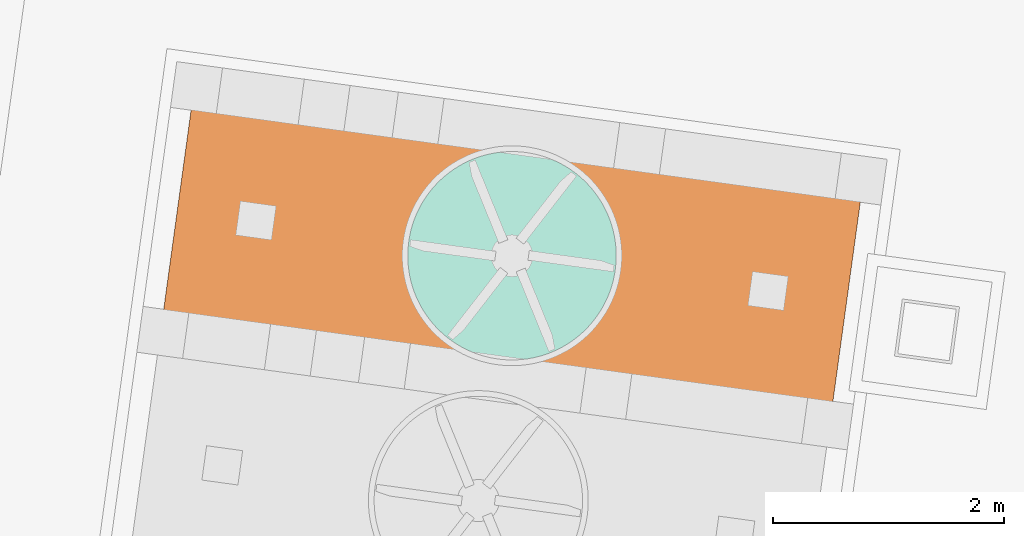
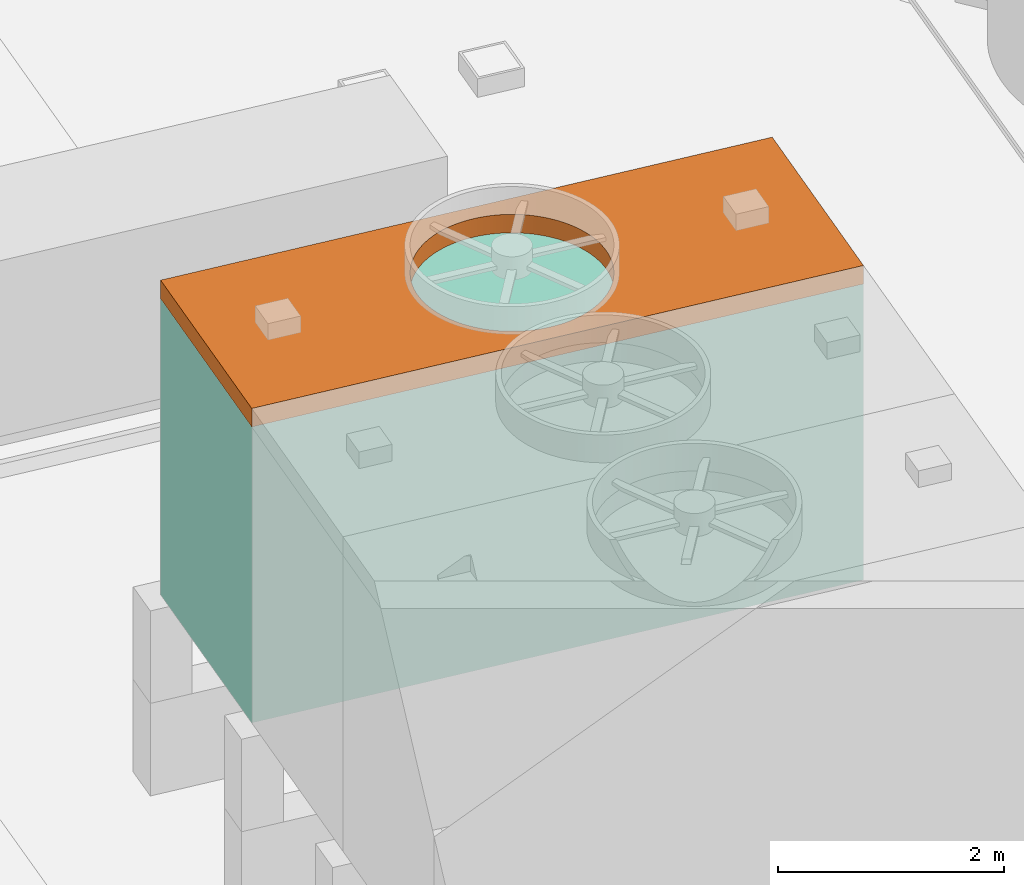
# Not in any storey, part 45 of 75: 1 proxy, plus 1 element that does not belong to this part.
"""IFC4 model written with IfcOpenShell, lengths in metres."""

from ifc_helpers import new_model, si_unit, direction, origin_with_axes, place, context, subcontext, project, spatial, triangles, element, aggregate, save


model = new_model("IFC4")

# Units and contexts
model_context = context("Model", 3, precision=1e-05, world=origin_with_axes(), true_north=direction((0.0, 1.0)))
body_context = subcontext(model_context, "Body", "Model", "MODEL_VIEW")
ifc_project = project(units=[si_unit("AREAUNIT", "SQUARE_METRE"), si_unit("VOLUMEUNIT", "CUBIC_METRE"), si_unit("LENGTHUNIT", "METRE")], contexts=[model_context])

# Site
site_placement = place(None, origin_with_axes())
site = spatial("IfcSite", under=ifc_project, at=site_placement, Name="Parcela industrial Jinhong")

# Cooling tower, proxy
cooling_tower_placement = place(site_placement, origin_with_axes())
cooling_tower = element("IfcCoolingTower", 1, at=cooling_tower_placement, inside=site, Name="Torre de refrigeración WT3001A · Envolvente del cuerpo de la torre", ObjectType="Envolvente de equipo", PredefinedType="USERDEFINED", context=body_context, shape_type="Tessellation", body=[
    triangles([(42.53184, 48.464349, 6.3), (37.027833, 51.381199, 6.3), (36.736357, 49.261142, 6.3), (37.027833, 51.381199, 3.1), (42.53184, 48.464349, 3.1), (36.736357, 49.261142, 3.1), (42.823316, 50.584406, 6.3), (42.823316, 50.584406, 3.1)], [[1, 2, 3], [4, 5, 6], [1, 7, 2], [5, 4, 8], [5, 8, 7], [5, 7, 1], [8, 4, 2], [7, 8, 2], [3, 4, 6], [4, 3, 2], [6, 5, 1], [3, 6, 1]], closed=True),
])
proxy_placement = place(cooling_tower_placement, origin_with_axes())
proxy = element("IfcBuildingElementProxy", 2, at=proxy_placement, Name="Torre de refrigeración WT3001A · Plataforma superior con hueco de ventilador", context=body_context, shape_type="Tessellation", body=[
    triangles([(38.890385, 50.074862, 6.5), (36.736357, 49.261142, 6.5), (38.885885, 50.045679, 6.5), (36.736357, 49.261142, 6.3), (38.890385, 50.074862, 6.3), (38.885885, 50.045679, 6.3), (38.882342, 50.016364, 6.5), (38.882342, 50.016364, 6.3), (37.027833, 51.381199, 6.5), (37.027833, 51.381199, 6.3), (38.87976, 49.986948, 6.5), (38.87976, 49.986948, 6.3), (38.895837, 50.103883, 6.5), (38.895837, 50.103883, 6.3), (38.878143, 49.957464, 6.5), (38.878143, 49.957464, 6.3), (38.902236, 50.13271, 6.5), (38.902236, 50.13271, 6.3), (38.87749, 49.927943, 6.5), (38.87749, 49.927943, 6.3), (38.909575, 50.161311, 6.5), (38.909575, 50.161311, 6.3), (38.877804, 49.898417, 6.5), (38.877804, 49.898417, 6.3), (38.917846, 50.189658, 6.5), (38.917846, 50.189658, 6.3), (38.879084, 49.868916, 6.5), (38.879084, 49.868916, 6.3), (38.927039, 50.217718, 6.5), (38.927039, 50.217718, 6.3), (38.881329, 49.839473, 6.5), (38.881329, 49.839473, 6.3), (38.937146, 50.245463, 6.5), (38.937146, 50.245463, 6.3), (38.884535, 49.810119, 6.5), (38.884535, 49.810119, 6.3), (38.948156, 50.272863, 6.5), (38.948156, 50.272863, 6.3), (38.888701, 49.780886, 6.5), (38.888701, 49.780886, 6.3), (38.960056, 50.299887, 6.5), (38.960056, 50.299887, 6.3), (38.89382, 49.751805, 6.5), (38.89382, 49.751805, 6.3), (38.972833, 50.326508, 6.5), (38.972833, 50.326508, 6.3), (38.899889, 49.722907, 6.5), (38.899889, 49.722907, 6.3), (38.986475, 50.352696, 6.5), (38.986475, 50.352696, 6.3), (38.906899, 49.694223, 6.5), (38.906899, 49.694223, 6.3), (39.000967, 50.378424, 6.5), (39.000967, 50.378424, 6.3), (38.914844, 49.665783, 6.5), (38.914844, 49.665783, 6.3), (39.016292, 50.403664, 6.5), (39.016292, 50.403664, 6.3), (38.923716, 49.637619, 6.5), (38.923716, 49.637619, 6.3), (39.032435, 50.428389, 6.5), (39.032435, 50.428389, 6.3), (38.933504, 49.60976, 6.5), (38.933504, 49.60976, 6.3), (39.049379, 50.452572, 6.5), (39.049379, 50.452572, 6.3), (38.944199, 49.582237, 6.5), (38.944199, 49.582237, 6.3), (39.067104, 50.476188, 6.5), (39.067104, 50.476188, 6.3), (38.955789, 49.555078, 6.5), (38.955789, 49.555078, 6.3), (39.085593, 50.499212, 6.5), (39.085593, 50.499212, 6.3), (38.96826, 49.528313, 6.5), (38.96826, 49.528313, 6.3), (39.104825, 50.521618, 6.5), (39.104825, 50.521618, 6.3), (38.981601, 49.50197, 6.5), (38.981601, 49.50197, 6.3), (39.12478, 50.543384, 6.5), (39.12478, 50.543384, 6.3), (38.995797, 49.476078, 6.5), (38.995797, 49.476078, 6.3), (39.145437, 50.564484, 6.5), (39.145437, 50.564484, 6.3), (39.010832, 49.450664, 6.5), (39.010832, 49.450664, 6.3), (39.166773, 50.584897, 6.5), (39.166773, 50.584897, 6.3), (39.026691, 49.425755, 6.5), (39.026691, 49.425755, 6.3), (39.188765, 50.604602, 6.5), (39.188765, 50.604602, 6.3), (39.043356, 49.401379, 6.5), (39.043356, 49.401379, 6.3), (39.21139, 50.623576, 6.5), (39.21139, 50.623576, 6.3), (39.06081, 49.377562, 6.5), (39.06081, 49.377562, 6.3), (39.234624, 50.6418, 6.5), (39.234624, 50.6418, 6.3), (39.079034, 49.354328, 6.5), (39.079034, 49.354328, 6.3), (39.258442, 50.659254, 6.5), (39.258442, 50.659254, 6.3), (39.098008, 49.331702, 6.5), (39.098008, 49.331702, 6.3), (39.282818, 50.675919, 6.5), (39.282818, 50.675919, 6.3), (39.117713, 49.30971, 6.5), (39.117713, 49.30971, 6.3), (39.307726, 50.691778, 6.5), (39.307726, 50.691778, 6.3), (39.138126, 49.288374, 6.5), (39.138126, 49.288374, 6.3), (39.33314, 50.706813, 6.5), (39.33314, 50.706813, 6.3), (39.159227, 49.267718, 6.5), (39.159227, 49.267718, 6.3), (39.359033, 50.721009, 6.5), (39.359033, 50.721009, 6.3), (39.180992, 49.247763, 6.5), (39.180992, 49.247763, 6.3), (39.385375, 50.73435, 6.5), (39.385375, 50.73435, 6.3), (39.203398, 49.22853, 6.5), (39.203398, 49.22853, 6.3), (39.412141, 50.746821, 6.5), (39.412141, 50.746821, 6.3), (39.226422, 49.210042, 6.5), (39.226422, 49.210042, 6.3), (39.4393, 50.758411, 6.5), (39.4393, 50.758411, 6.3), (39.250038, 49.192316, 6.5), (39.250038, 49.192316, 6.3), (39.466823, 50.769106, 6.5), (39.466823, 50.769106, 6.3), (39.274221, 49.175372, 6.5), (39.274221, 49.175372, 6.3), (39.494682, 50.778894, 6.5), (39.494682, 50.778894, 6.3), (39.298946, 49.159229, 6.5), (39.298946, 49.159229, 6.3), (39.522846, 50.787766, 6.5), (39.522846, 50.787766, 6.3), (39.324186, 49.143904, 6.5), (39.324186, 49.143904, 6.3), (39.551285, 50.795711, 6.5), (39.551285, 50.795711, 6.3), (39.349914, 49.129412, 6.5), (39.349914, 49.129412, 6.3), (39.579969, 50.802722, 6.5), (39.579969, 50.802722, 6.3), (39.376103, 49.115771, 6.5), (39.376103, 49.115771, 6.3), (39.608868, 50.80879, 6.5), (39.608868, 50.80879, 6.3), (39.402723, 49.102993, 6.5), (39.402723, 49.102993, 6.3), (39.637949, 50.813909, 6.5), (39.637949, 50.813909, 6.3), (39.429747, 49.091093, 6.5), (39.429747, 49.091093, 6.3), (39.667182, 50.818075, 6.5), (39.667182, 50.818075, 6.3), (39.457147, 49.080084, 6.5), (39.457147, 49.080084, 6.3), (39.696536, 50.821281, 6.5), (39.696536, 50.821281, 6.3), (39.484892, 49.069977, 6.5), (39.484892, 49.069977, 6.3), (39.725979, 50.823526, 6.5), (39.725979, 50.823526, 6.3), (39.512952, 49.060783, 6.5), (39.512952, 49.060783, 6.3), (39.755479, 50.824806, 6.5), (39.755479, 50.824806, 6.3), (39.541299, 49.052512, 6.5), (39.541299, 49.052512, 6.3), (39.785006, 50.82512, 6.5), (39.785006, 50.82512, 6.3), (39.569901, 49.045174, 6.5), (39.569901, 49.045174, 6.3), (39.814527, 50.824467, 6.5), (39.814527, 50.824467, 6.3), (39.598727, 49.038775, 6.5), (39.598727, 49.038775, 6.3), (39.844011, 50.82285, 6.5), (39.844011, 50.82285, 6.3), (39.627748, 49.033322, 6.5), (39.627748, 49.033322, 6.3), (42.823316, 50.584406, 6.5), (42.823316, 50.584406, 6.3), (39.656931, 49.028822, 6.5), (39.656931, 49.028822, 6.3), (39.873426, 50.820268, 6.5), (39.873426, 50.820268, 6.3), (39.686246, 49.025279, 6.5), (39.686246, 49.025279, 6.3), (39.902741, 50.816725, 6.5), (39.902741, 50.816725, 6.3), (39.715662, 49.022698, 6.5), (39.715662, 49.022698, 6.3), (39.931925, 50.812225, 6.5), (39.931925, 50.812225, 6.3), (42.53184, 48.464349, 6.5), (42.53184, 48.464349, 6.3), (39.960946, 50.806773, 6.5), (39.960946, 50.806773, 6.3), (39.745146, 49.02108, 6.5), (39.745146, 49.02108, 6.3), (39.989772, 50.800374, 6.5), (39.989772, 50.800374, 6.3), (39.774667, 49.020428, 6.5), (39.774667, 49.020428, 6.3), (40.018374, 50.793035, 6.5), (40.018374, 50.793035, 6.3), (39.804194, 49.020742, 6.5), (39.804194, 49.020742, 6.3), (40.04672, 50.784764, 6.5), (40.04672, 50.784764, 6.3), (39.833694, 49.022022, 6.5), (39.833694, 49.022022, 6.3), (40.074781, 50.775571, 6.5), (40.074781, 50.775571, 6.3), (39.863137, 49.024266, 6.5), (39.863137, 49.024266, 6.3), (40.102526, 50.765464, 6.5), (40.102526, 50.765464, 6.3), (39.892491, 49.027473, 6.5), (39.892491, 49.027473, 6.3), (40.129925, 50.754454, 6.5), (40.129925, 50.754454, 6.3), (39.921724, 49.031638, 6.5), (39.921724, 49.031638, 6.3), (40.15695, 50.742554, 6.5), (40.15695, 50.742554, 6.3), (39.950805, 49.036758, 6.5), (39.950805, 49.036758, 6.3), (40.18357, 50.729777, 6.5), (40.18357, 50.729777, 6.3), (39.979703, 49.042826, 6.5), (39.979703, 49.042826, 6.3), (40.209758, 50.716135, 6.5), (40.209758, 50.716135, 6.3), (40.008387, 49.049836, 6.5), (40.008387, 49.049836, 6.3), (40.235486, 50.701643, 6.5), (40.235486, 50.701643, 6.3), (40.036827, 49.057782, 6.5), (40.036827, 49.057782, 6.3), (40.260726, 50.686318, 6.5), (40.260726, 50.686318, 6.3), (40.064991, 49.066653, 6.5), (40.064991, 49.066653, 6.3), (40.285451, 50.670175, 6.5), (40.285451, 50.670175, 6.3), (40.09285, 49.076442, 6.5), (40.09285, 49.076442, 6.3), (40.309635, 50.653231, 6.5), (40.309635, 50.653231, 6.3), (40.120373, 49.087136, 6.5), (40.120373, 49.087136, 6.3), (40.333251, 50.635506, 6.5), (40.333251, 50.635506, 6.3), (40.147532, 49.098726, 6.5), (40.147532, 49.098726, 6.3), (40.356275, 50.617017, 6.5), (40.356275, 50.617017, 6.3), (40.174297, 49.111198, 6.5), (40.174297, 49.111198, 6.3), (40.378681, 50.597785, 6.5), (40.378681, 50.597785, 6.3), (40.20064, 49.124539, 6.5), (40.20064, 49.124539, 6.3), (40.400446, 50.57783, 6.5), (40.400446, 50.57783, 6.3), (40.226532, 49.138734, 6.5), (40.226532, 49.138734, 6.3), (40.421547, 50.557173, 6.5), (40.421547, 50.557173, 6.3), (40.251946, 49.15377, 6.5), (40.251946, 49.15377, 6.3), (40.276855, 49.169628, 6.5), (40.276855, 49.169628, 6.3), (40.44196, 50.535837, 6.5), (40.44196, 50.535837, 6.3), (40.301231, 49.186294, 6.5), (40.301231, 49.186294, 6.3), (40.461664, 50.513845, 6.5), (40.461664, 50.513845, 6.3), (40.325049, 49.203748, 6.5), (40.325049, 49.203748, 6.3), (40.480639, 50.49122, 6.5), (40.480639, 50.49122, 6.3), (40.348282, 49.221971, 6.5), (40.348282, 49.221971, 6.3), (40.498863, 50.467986, 6.5), (40.498863, 50.467986, 6.3), (40.370908, 49.240946, 6.5), (40.370908, 49.240946, 6.3), (40.516316, 50.444168, 6.5), (40.516316, 50.444168, 6.3), (40.3929, 49.26065, 6.5), (40.3929, 49.26065, 6.3), (40.532982, 50.419792, 6.5), (40.532982, 50.419792, 6.3), (40.414236, 49.281063, 6.5), (40.414236, 49.281063, 6.3), (40.54884, 50.394884, 6.5), (40.54884, 50.394884, 6.3), (40.434892, 49.302164, 6.5), (40.434892, 49.302164, 6.3), (40.563876, 50.36947, 6.5), (40.563876, 50.36947, 6.3), (40.454847, 49.323929, 6.5), (40.454847, 49.323929, 6.3), (40.578071, 50.343578, 6.5), (40.578071, 50.343578, 6.3), (40.47408, 49.346335, 6.5), (40.47408, 49.346335, 6.3), (40.591412, 50.317235, 6.5), (40.591412, 50.317235, 6.3), (40.492569, 49.369359, 6.5), (40.492569, 49.369359, 6.3), (40.603884, 50.290469, 6.5), (40.603884, 50.290469, 6.3), (40.510294, 49.392975, 6.5), (40.510294, 49.392975, 6.3), (40.615474, 50.263311, 6.5), (40.615474, 50.263311, 6.3), (40.527238, 49.417159, 6.5), (40.527238, 49.417159, 6.3), (40.626168, 50.235787, 6.5), (40.626168, 50.235787, 6.3), (40.543381, 49.441884, 6.5), (40.543381, 49.441884, 6.3), (40.635957, 50.207928, 6.5), (40.635957, 50.207928, 6.3), (40.558706, 49.467124, 6.5), (40.558706, 49.467124, 6.3), (40.644828, 50.179764, 6.5), (40.644828, 50.179764, 6.3), (40.573198, 49.492852, 6.5), (40.573198, 49.492852, 6.3), (40.652774, 50.151325, 6.5), (40.652774, 50.151325, 6.3), (40.586839, 49.51904, 6.5), (40.586839, 49.51904, 6.3), (40.659784, 50.122641, 6.5), (40.659784, 50.122641, 6.3), (40.599617, 49.54566, 6.5), (40.599617, 49.54566, 6.3), (40.665853, 50.093742, 6.5), (40.665853, 50.093742, 6.3), (40.611517, 49.572685, 6.5), (40.611517, 49.572685, 6.3), (40.670972, 50.064661, 6.5), (40.670972, 50.064661, 6.3), (40.622526, 49.600084, 6.5), (40.622526, 49.600084, 6.3), (40.675137, 50.035428, 6.5), (40.675137, 50.035428, 6.3), (40.632633, 49.627829, 6.5), (40.632633, 49.627829, 6.3), (40.678344, 50.006074, 6.5), (40.678344, 50.006074, 6.3), (40.641827, 49.65589, 6.5), (40.641827, 49.65589, 6.3), (40.680588, 49.976631, 6.5), (40.680588, 49.976631, 6.3), (40.650098, 49.684236, 6.5), (40.650098, 49.684236, 6.3), (40.681868, 49.947131, 6.5), (40.681868, 49.947131, 6.3), (40.657436, 49.712838, 6.5), (40.657436, 49.712838, 6.3), (40.682182, 49.917604, 6.5), (40.682182, 49.917604, 6.3), (40.663835, 49.741665, 6.5), (40.663835, 49.741665, 6.3), (40.68153, 49.888083, 6.5), (40.68153, 49.888083, 6.3), (40.669288, 49.770685, 6.5), (40.669288, 49.770685, 6.3), (40.679912, 49.858599, 6.5), (40.679912, 49.858599, 6.3), (40.673788, 49.799869, 6.5), (40.673788, 49.799869, 6.3), (40.677331, 49.829184, 6.5), (40.677331, 49.829184, 6.3)], [[1, 2, 3], [4, 5, 6], [7, 3, 2], [8, 4, 6], [2, 1, 9], [10, 5, 4], [11, 7, 2], [4, 8, 12], [1, 13, 9], [10, 14, 5], [15, 11, 2], [4, 12, 16], [13, 17, 9], [14, 10, 18], [19, 15, 2], [4, 16, 20], [17, 21, 9], [18, 10, 22], [23, 19, 2], [4, 20, 24], [21, 25, 9], [22, 10, 26], [27, 23, 2], [4, 24, 28], [25, 29, 9], [26, 10, 30], [31, 27, 2], [4, 28, 32], [29, 33, 9], [30, 10, 34], [35, 31, 2], [4, 32, 36], [33, 37, 9], [34, 10, 38], [39, 35, 2], [4, 36, 40], [37, 41, 9], [38, 10, 42], [43, 39, 2], [4, 40, 44], [41, 45, 9], [42, 10, 46], [47, 43, 2], [4, 44, 48], [45, 49, 9], [46, 10, 50], [51, 47, 2], [4, 48, 52], [49, 53, 9], [50, 10, 54], [55, 51, 2], [4, 52, 56], [53, 57, 9], [54, 10, 58], [59, 55, 2], [4, 56, 60], [57, 61, 9], [58, 10, 62], [63, 59, 2], [4, 60, 64], [61, 65, 9], [62, 10, 66], [67, 63, 2], [4, 64, 68], [65, 69, 9], [66, 10, 70], [71, 67, 2], [4, 68, 72], [69, 73, 9], [70, 10, 74], [75, 71, 2], [4, 72, 76], [73, 77, 9], [74, 10, 78], [79, 75, 2], [4, 76, 80], [77, 81, 9], [78, 10, 82], [83, 79, 2], [4, 80, 84], [81, 85, 9], [82, 10, 86], [87, 83, 2], [4, 84, 88], [85, 89, 9], [86, 10, 90], [91, 87, 2], [4, 88, 92], [89, 93, 9], [90, 10, 94], [95, 91, 2], [4, 92, 96], [93, 97, 9], [94, 10, 98], [99, 95, 2], [4, 96, 100], [97, 101, 9], [98, 10, 102], [103, 99, 2], [4, 100, 104], [101, 105, 9], [102, 10, 106], [107, 103, 2], [4, 104, 108], [105, 109, 9], [106, 10, 110], [111, 107, 2], [4, 108, 112], [109, 113, 9], [110, 10, 114], [115, 111, 2], [4, 112, 116], [113, 117, 9], [114, 10, 118], [119, 115, 2], [4, 116, 120], [117, 121, 9], [118, 10, 122], [123, 119, 2], [4, 120, 124], [121, 125, 9], [122, 10, 126], [127, 123, 2], [4, 124, 128], [125, 129, 9], [126, 10, 130], [131, 127, 2], [4, 128, 132], [129, 133, 9], [130, 10, 134], [135, 131, 2], [4, 132, 136], [133, 137, 9], [134, 10, 138], [139, 135, 2], [4, 136, 140], [137, 141, 9], [138, 10, 142], [143, 139, 2], [4, 140, 144], [141, 145, 9], [142, 10, 146], [147, 143, 2], [4, 144, 148], [145, 149, 9], [146, 10, 150], [151, 147, 2], [4, 148, 152], [149, 153, 9], [150, 10, 154], [155, 151, 2], [4, 152, 156], [153, 157, 9], [154, 10, 158], [159, 155, 2], [4, 156, 160], [157, 161, 9], [158, 10, 162], [163, 159, 2], [4, 160, 164], [161, 165, 9], [162, 10, 166], [167, 163, 2], [4, 164, 168], [165, 169, 9], [166, 10, 170], [171, 167, 2], [4, 168, 172], [169, 173, 9], [170, 10, 174], [175, 171, 2], [4, 172, 176], [173, 177, 9], [174, 10, 178], [179, 175, 2], [4, 176, 180], [177, 181, 9], [178, 10, 182], [183, 179, 2], [4, 180, 184], [181, 185, 9], [182, 10, 186], [187, 183, 2], [4, 184, 188], [185, 189, 9], [186, 10, 190], [191, 187, 2], [4, 188, 192], [189, 193, 9], [190, 10, 194], [191, 2, 195], [192, 196, 4], [193, 189, 197], [198, 190, 194], [195, 2, 199], [196, 200, 4], [193, 197, 201], [202, 198, 194], [199, 2, 203], [200, 204, 4], [193, 201, 205], [206, 202, 194], [203, 2, 207], [204, 208, 4], [193, 205, 209], [210, 206, 194], [211, 203, 207], [208, 204, 212], [193, 209, 213], [214, 210, 194], [215, 211, 207], [208, 212, 216], [193, 213, 217], [218, 214, 194], [219, 215, 207], [208, 216, 220], [193, 217, 221], [222, 218, 194], [207, 223, 219], [220, 224, 208], [193, 221, 225], [226, 222, 194], [207, 227, 223], [224, 228, 208], [193, 225, 229], [230, 226, 194], [207, 231, 227], [228, 232, 208], [193, 229, 233], [234, 230, 194], [207, 235, 231], [232, 236, 208], [193, 233, 237], [238, 234, 194], [207, 239, 235], [236, 240, 208], [193, 237, 241], [242, 238, 194], [207, 243, 239], [240, 244, 208], [193, 241, 245], [246, 242, 194], [207, 247, 243], [244, 248, 208], [193, 245, 249], [250, 246, 194], [207, 251, 247], [248, 252, 208], [193, 249, 253], [254, 250, 194], [207, 255, 251], [252, 256, 208], [193, 253, 257], [258, 254, 194], [207, 259, 255], [256, 260, 208], [193, 257, 261], [262, 258, 194], [207, 263, 259], [260, 264, 208], [193, 261, 265], [266, 262, 194], [207, 267, 263], [264, 268, 208], [193, 265, 269], [270, 266, 194], [207, 271, 267], [268, 272, 208], [193, 269, 273], [274, 270, 194], [207, 275, 271], [272, 276, 208], [193, 273, 277], [278, 274, 194], [207, 279, 275], [276, 280, 208], [193, 277, 281], [282, 278, 194], [207, 283, 279], [280, 284, 208], [207, 193, 281], [208, 282, 194], [207, 285, 283], [284, 286, 208], [207, 281, 287], [288, 282, 208], [207, 289, 285], [286, 290, 208], [207, 287, 291], [292, 288, 208], [207, 293, 289], [290, 294, 208], [207, 291, 295], [296, 292, 208], [207, 297, 293], [294, 298, 208], [207, 295, 299], [300, 296, 208], [207, 301, 297], [298, 302, 208], [207, 299, 303], [304, 300, 208], [207, 305, 301], [302, 306, 208], [207, 303, 307], [308, 304, 208], [207, 309, 305], [306, 310, 208], [207, 307, 311], [312, 308, 208], [309, 207, 313], [310, 314, 208], [207, 311, 315], [316, 312, 208], [313, 207, 317], [314, 318, 208], [207, 315, 319], [320, 316, 208], [317, 207, 321], [318, 322, 208], [207, 319, 323], [324, 320, 208], [321, 207, 325], [322, 326, 208], [207, 323, 327], [328, 324, 208], [325, 207, 329], [326, 330, 208], [207, 327, 331], [332, 328, 208], [329, 207, 333], [330, 334, 208], [207, 331, 335], [336, 332, 208], [333, 207, 337], [334, 338, 208], [207, 335, 339], [340, 336, 208], [337, 207, 341], [338, 342, 208], [207, 339, 343], [344, 340, 208], [341, 207, 345], [342, 346, 208], [207, 343, 347], [348, 344, 208], [345, 207, 349], [346, 350, 208], [207, 347, 351], [352, 348, 208], [349, 207, 353], [350, 354, 208], [207, 351, 355], [356, 352, 208], [353, 207, 357], [354, 358, 208], [207, 355, 359], [360, 356, 208], [357, 207, 361], [358, 362, 208], [207, 359, 363], [364, 360, 208], [361, 207, 365], [362, 366, 208], [207, 363, 367], [368, 364, 208], [365, 207, 369], [366, 370, 208], [207, 367, 371], [372, 368, 208], [369, 207, 373], [370, 374, 208], [207, 371, 375], [376, 372, 208], [373, 207, 377], [374, 378, 208], [207, 375, 379], [380, 376, 208], [377, 207, 381], [378, 382, 208], [207, 379, 383], [384, 380, 208], [381, 207, 385], [382, 386, 208], [207, 383, 387], [388, 384, 208], [385, 207, 389], [386, 390, 208], [207, 387, 391], [392, 388, 208], [389, 207, 391], [390, 392, 208], [207, 4, 208], [4, 207, 2], [194, 193, 208], [208, 193, 207], [194, 10, 9], [193, 194, 9], [4, 2, 10], [10, 2, 9], [392, 390, 389], [392, 389, 391], [390, 386, 385], [390, 385, 389], [386, 382, 381], [386, 381, 385], [382, 378, 377], [382, 377, 381], [378, 374, 373], [378, 373, 377], [374, 370, 369], [374, 369, 373], [370, 366, 365], [370, 365, 369], [366, 362, 361], [366, 361, 365], [362, 358, 357], [362, 357, 361], [358, 354, 353], [358, 353, 357], [354, 350, 349], [354, 349, 353], [350, 346, 345], [350, 345, 349], [346, 342, 341], [346, 341, 345], [342, 338, 337], [342, 337, 341], [338, 334, 333], [338, 333, 337], [334, 330, 329], [334, 329, 333], [330, 326, 325], [330, 325, 329], [326, 322, 321], [326, 321, 325], [322, 318, 317], [322, 317, 321], [318, 314, 313], [318, 313, 317], [314, 310, 309], [314, 309, 313], [310, 306, 305], [310, 305, 309], [306, 302, 301], [306, 301, 305], [302, 298, 297], [302, 297, 301], [298, 294, 293], [298, 293, 297], [294, 290, 289], [294, 289, 293], [290, 286, 285], [290, 285, 289], [286, 284, 283], [286, 283, 285], [284, 280, 279], [284, 279, 283], [280, 276, 275], [280, 275, 279], [276, 272, 271], [276, 271, 275], [272, 268, 267], [272, 267, 271], [268, 264, 263], [268, 263, 267], [264, 260, 259], [264, 259, 263], [260, 256, 255], [260, 255, 259], [256, 252, 251], [256, 251, 255], [252, 248, 247], [252, 247, 251], [248, 244, 243], [248, 243, 247], [244, 240, 239], [244, 239, 243], [240, 236, 235], [240, 235, 239], [236, 232, 231], [236, 231, 235], [232, 228, 227], [232, 227, 231], [228, 224, 223], [228, 223, 227], [224, 220, 219], [224, 219, 223], [220, 216, 215], [220, 215, 219], [216, 212, 211], [216, 211, 215], [212, 204, 203], [212, 203, 211], [204, 200, 199], [204, 199, 203], [200, 196, 195], [200, 195, 199], [196, 192, 191], [196, 191, 195], [192, 188, 187], [192, 187, 191], [188, 184, 183], [188, 183, 187], [184, 180, 179], [184, 179, 183], [180, 176, 175], [180, 175, 179], [176, 172, 171], [176, 171, 175], [172, 168, 167], [172, 167, 171], [168, 164, 163], [168, 163, 167], [164, 160, 159], [164, 159, 163], [160, 156, 155], [160, 155, 159], [156, 152, 151], [156, 151, 155], [152, 148, 147], [152, 147, 151], [148, 144, 143], [148, 143, 147], [144, 140, 139], [144, 139, 143], [140, 136, 135], [140, 135, 139], [136, 132, 131], [136, 131, 135], [132, 128, 127], [132, 127, 131], [128, 124, 123], [128, 123, 127], [124, 120, 119], [124, 119, 123], [120, 116, 115], [120, 115, 119], [116, 112, 111], [116, 111, 115], [112, 108, 107], [112, 107, 111], [108, 104, 103], [108, 103, 107], [104, 100, 99], [104, 99, 103], [100, 96, 95], [100, 95, 99], [96, 92, 91], [96, 91, 95], [92, 88, 87], [92, 87, 91], [88, 84, 83], [88, 83, 87], [84, 80, 79], [84, 79, 83], [80, 76, 75], [80, 75, 79], [76, 72, 71], [76, 71, 75], [72, 68, 67], [72, 67, 71], [68, 64, 63], [68, 63, 67], [64, 60, 59], [64, 59, 63], [60, 56, 55], [60, 55, 59], [56, 52, 51], [56, 51, 55], [52, 48, 47], [52, 47, 51], [48, 44, 43], [48, 43, 47], [44, 40, 39], [44, 39, 43], [40, 36, 35], [40, 35, 39], [36, 32, 31], [36, 31, 35], [32, 28, 27], [32, 27, 31], [28, 24, 23], [28, 23, 27], [24, 20, 19], [24, 19, 23], [20, 16, 15], [20, 15, 19], [16, 12, 11], [16, 11, 15], [12, 8, 7], [12, 7, 11], [8, 6, 3], [8, 3, 7], [6, 5, 1], [1, 3, 6], [5, 14, 13], [5, 13, 1], [14, 18, 17], [14, 17, 13], [18, 22, 21], [18, 21, 17], [22, 26, 25], [22, 25, 21], [26, 30, 29], [26, 29, 25], [30, 34, 33], [30, 33, 29], [34, 38, 37], [34, 37, 33], [38, 42, 41], [38, 41, 37], [42, 46, 45], [42, 45, 41], [46, 50, 49], [46, 49, 45], [50, 54, 53], [50, 53, 49], [54, 58, 57], [54, 57, 53], [58, 62, 61], [58, 61, 57], [62, 66, 65], [62, 65, 61], [66, 70, 69], [66, 69, 65], [70, 74, 73], [70, 73, 69], [74, 78, 77], [74, 77, 73], [78, 82, 81], [78, 81, 77], [82, 86, 85], [82, 85, 81], [89, 86, 90], [89, 85, 86], [93, 90, 94], [93, 89, 90], [97, 94, 98], [97, 93, 94], [101, 98, 102], [101, 97, 98], [105, 102, 106], [105, 101, 102], [109, 106, 110], [109, 105, 106], [113, 110, 114], [113, 109, 110], [117, 114, 118], [117, 113, 114], [121, 118, 122], [121, 117, 118], [125, 122, 126], [125, 121, 122], [129, 126, 130], [129, 125, 126], [133, 130, 134], [133, 129, 130], [137, 134, 138], [137, 133, 134], [141, 138, 142], [141, 137, 138], [145, 142, 146], [145, 141, 142], [149, 146, 150], [149, 145, 146], [153, 150, 154], [153, 149, 150], [157, 154, 158], [157, 153, 154], [161, 158, 162], [161, 157, 158], [165, 162, 166], [165, 161, 162], [169, 166, 170], [169, 165, 166], [173, 170, 174], [173, 169, 170], [177, 174, 178], [177, 173, 174], [181, 178, 182], [181, 177, 178], [185, 182, 186], [185, 181, 182], [189, 186, 190], [189, 185, 186], [197, 190, 198], [197, 189, 190], [201, 198, 202], [201, 197, 198], [205, 202, 206], [205, 201, 202], [209, 206, 210], [209, 205, 206], [213, 210, 214], [213, 209, 210], [217, 214, 218], [217, 213, 214], [221, 218, 222], [221, 217, 218], [225, 222, 226], [225, 221, 222], [229, 226, 230], [229, 225, 226], [233, 230, 234], [233, 229, 230], [237, 234, 238], [237, 233, 234], [241, 238, 242], [241, 237, 238], [245, 242, 246], [245, 241, 242], [249, 246, 250], [249, 245, 246], [253, 250, 254], [253, 249, 250], [257, 254, 258], [257, 253, 254], [261, 258, 262], [261, 257, 258], [265, 262, 266], [265, 261, 262], [269, 266, 270], [269, 265, 266], [273, 270, 274], [273, 269, 270], [277, 274, 278], [277, 273, 274], [281, 278, 282], [281, 277, 278], [282, 288, 287], [282, 287, 281], [288, 292, 291], [288, 291, 287], [292, 296, 295], [292, 295, 291], [296, 300, 299], [296, 299, 295], [300, 304, 303], [300, 303, 299], [304, 308, 307], [304, 307, 303], [308, 312, 311], [308, 311, 307], [312, 316, 315], [312, 315, 311], [316, 320, 319], [316, 319, 315], [320, 324, 323], [320, 323, 319], [324, 328, 327], [324, 327, 323], [328, 332, 331], [328, 331, 327], [332, 336, 335], [332, 335, 331], [336, 340, 339], [336, 339, 335], [340, 344, 343], [340, 343, 339], [344, 348, 347], [344, 347, 343], [348, 352, 351], [348, 351, 347], [352, 356, 355], [352, 355, 351], [356, 360, 359], [356, 359, 355], [360, 364, 363], [360, 363, 359], [364, 368, 367], [364, 367, 363], [368, 372, 371], [368, 371, 367], [372, 376, 375], [372, 375, 371], [376, 380, 379], [376, 379, 375], [380, 384, 383], [380, 383, 379], [384, 388, 387], [384, 387, 383], [388, 392, 391], [388, 391, 387]], closed=True),
])
aggregate(cooling_tower, [proxy])

save(model, "model.ifc")
